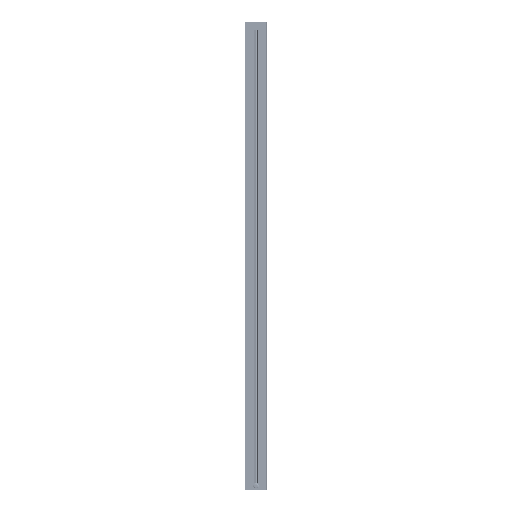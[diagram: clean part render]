
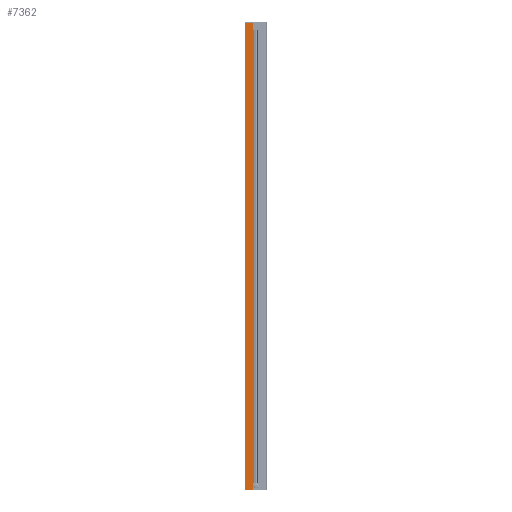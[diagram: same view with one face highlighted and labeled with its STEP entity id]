
A CAD part, left-side view. The second image highlights one B-rep face of the part: STEP entity #7362.
In plain terms, the highlighted planar face has unit normal (-1, 0, 0).
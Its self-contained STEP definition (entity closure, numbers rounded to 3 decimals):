
#79 = VECTOR ( 'NONE', #9663, 1000. ) ;
#150 = CARTESIAN_POINT ( 'NONE',  ( -16., 13.85, -1017. ) ) ;
#249 = AXIS2_PLACEMENT_3D ( 'NONE', #21977, #31769, #11350 ) ;
#284 = VERTEX_POINT ( 'NONE', #12954 ) ;
#402 = PLANE ( 'NONE',  #249 ) ;
#456 = ORIENTED_EDGE ( 'NONE', *, *, #18776, .T. ) ;
#2284 = ORIENTED_EDGE ( 'NONE', *, *, #21757, .F. ) ;
#2528 = VECTOR ( 'NONE', #18274, 1000. ) ;
#2603 = VERTEX_POINT ( 'NONE', #10203 ) ;
#2951 = CARTESIAN_POINT ( 'NONE',  ( -16., 13.85, -987.3 ) ) ;
#3464 = DIRECTION ( 'NONE',  ( 0., 0., -1. ) ) ;
#3660 = FACE_OUTER_BOUND ( 'NONE', #31884, .T. ) ;
#6360 = CARTESIAN_POINT ( 'NONE',  ( -16., 13.85, 1017. ) ) ;
#6627 = VECTOR ( 'NONE', #18529, 1000. ) ;
#6810 = VECTOR ( 'NONE', #12885, 1000. ) ;
#7362 = ADVANCED_FACE ( 'NONE', ( #3660 ), #402, .F. ) ;
#7556 = EDGE_CURVE ( 'NONE', #32273, #33314, #18194, .T. ) ;
#7572 = CARTESIAN_POINT ( 'NONE',  ( -16., 13.85, 987.3 ) ) ;
#8022 = DIRECTION ( 'NONE',  ( 0., 0., 1. ) ) ;
#9663 = DIRECTION ( 'NONE',  ( 0., 0., 1. ) ) ;
#10203 = CARTESIAN_POINT ( 'NONE',  ( -16., 13.85, -1016.9 ) ) ;
#11350 = DIRECTION ( 'NONE',  ( 0., 1., 0. ) ) ;
#11579 = VERTEX_POINT ( 'NONE', #21064 ) ;
#12073 = CARTESIAN_POINT ( 'NONE',  ( -16., 8.776, 987.3 ) ) ;
#12885 = DIRECTION ( 'NONE',  ( 0., -1., 0. ) ) ;
#12954 = CARTESIAN_POINT ( 'NONE',  ( -16., 8.776, -987.3 ) ) ;
#13483 = EDGE_CURVE ( 'NONE', #19219, #32273, #22119, .T. ) ;
#14077 = ORIENTED_EDGE ( 'NONE', *, *, #13483, .F. ) ;
#15368 = ORIENTED_EDGE ( 'NONE', *, *, #32288, .T. ) ;
#17574 = CARTESIAN_POINT ( 'NONE',  ( -16., 13.85, 987.3 ) ) ;
#17712 = DIRECTION ( 'NONE',  ( 0., -1., 0. ) ) ;
#17755 = DIRECTION ( 'NONE',  ( 0., 0., -1. ) ) ;
#17923 = LINE ( 'NONE', #31145, #23145 ) ;
#18164 = ORIENTED_EDGE ( 'NONE', *, *, #18352, .T. ) ;
#18194 = LINE ( 'NONE', #7572, #6810 ) ;
#18274 = DIRECTION ( 'NONE',  ( 0., -1., 0. ) ) ;
#18312 = LINE ( 'NONE', #150, #26047 ) ;
#18352 = EDGE_CURVE ( 'NONE', #2603, #28675, #18312, .T. ) ;
#18529 = DIRECTION ( 'NONE',  ( 0., -1., 0. ) ) ;
#18776 = EDGE_CURVE ( 'NONE', #11579, #2603, #23088, .T. ) ;
#19219 = VERTEX_POINT ( 'NONE', #21139 ) ;
#21064 = CARTESIAN_POINT ( 'NONE',  ( -16., 46.5, -1016.9 ) ) ;
#21139 = CARTESIAN_POINT ( 'NONE',  ( -16., 13.85, 1017. ) ) ;
#21757 = EDGE_CURVE ( 'NONE', #31485, #19219, #32685, .T. ) ;
#21957 = CARTESIAN_POINT ( 'NONE',  ( -16., 46.5, 1017. ) ) ;
#21977 = CARTESIAN_POINT ( 'NONE',  ( -16., 8.487, 1017. ) ) ;
#22119 = LINE ( 'NONE', #6360, #27542 ) ;
#22685 = LINE ( 'NONE', #30579, #79 ) ;
#22962 = ORIENTED_EDGE ( 'NONE', *, *, #30409, .T. ) ;
#23088 = LINE ( 'NONE', #33552, #2528 ) ;
#23145 = VECTOR ( 'NONE', #17755, 1000. ) ;
#24087 = ORIENTED_EDGE ( 'NONE', *, *, #7556, .F. ) ;
#24514 = LINE ( 'NONE', #2951, #6627 ) ;
#24516 = VECTOR ( 'NONE', #17712, 1000. ) ;
#26047 = VECTOR ( 'NONE', #8022, 1000. ) ;
#26439 = CARTESIAN_POINT ( 'NONE',  ( -16., 13.85, -987.3 ) ) ;
#27542 = VECTOR ( 'NONE', #3464, 1000. ) ;
#28350 = CARTESIAN_POINT ( 'NONE',  ( -16., 8.487, 1017. ) ) ;
#28675 = VERTEX_POINT ( 'NONE', #26439 ) ;
#29605 = EDGE_CURVE ( 'NONE', #28675, #284, #24514, .T. ) ;
#30409 = EDGE_CURVE ( 'NONE', #284, #33314, #22685, .T. ) ;
#30579 = CARTESIAN_POINT ( 'NONE',  ( -16., 8.776, 1017. ) ) ;
#31145 = CARTESIAN_POINT ( 'NONE',  ( -16., 46.5, 1017. ) ) ;
#31485 = VERTEX_POINT ( 'NONE', #21957 ) ;
#31768 = ORIENTED_EDGE ( 'NONE', *, *, #29605, .T. ) ;
#31769 = DIRECTION ( 'NONE',  ( 1., 0., 0. ) ) ;
#31884 = EDGE_LOOP ( 'NONE', ( #18164, #31768, #22962, #24087, #14077, #2284, #15368, #456 ) ) ;
#32273 = VERTEX_POINT ( 'NONE', #17574 ) ;
#32288 = EDGE_CURVE ( 'NONE', #31485, #11579, #17923, .T. ) ;
#32685 = LINE ( 'NONE', #28350, #24516 ) ;
#33314 = VERTEX_POINT ( 'NONE', #12073 ) ;
#33552 = CARTESIAN_POINT ( 'NONE',  ( -16., 8.487, -1016.9 ) ) ;
